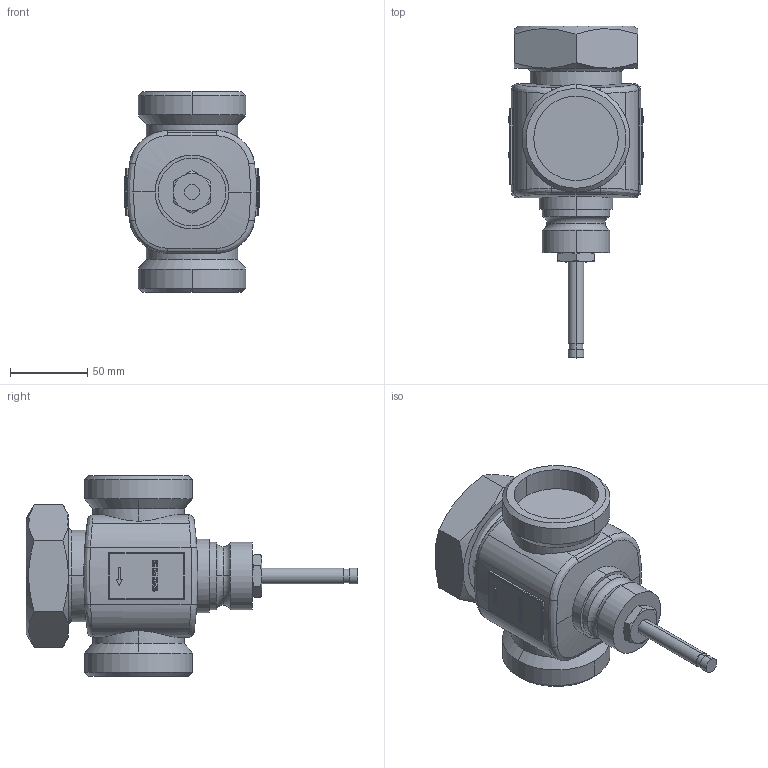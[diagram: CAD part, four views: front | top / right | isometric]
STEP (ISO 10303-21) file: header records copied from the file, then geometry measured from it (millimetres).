
FILE_DESCRIPTION((''),'2;1');
FILE_NAME('000154.stp','2006-09-29T17:18:45',(''),(''),'Mechanical Desktop 2006','Mechanical Desktop 2006',', , ');
FILE_SCHEMA(('AUTOMOTIVE_DESIGN { 1 2 10303 214 0 1 1 1 }'));
Length unit declared in the file: millimetre
Products named in the file (1): Product
Bounding box: 87.67 x 215.5 x 130 mm (x, y, z)
Volume: 767640.2 mm3; surface area: 108086.6 mm2
Topology: 26 solids, 26 shells, 529 faces, 1369 edges, 889 vertices
Faces by surface type: cylinder 245, plane 202, bspline 58, cone 12, sphere 8, torus 4
Entity records: 18306 total; most frequent: CARTESIAN_POINT 5305, ORIENTED_EDGE 2722, DIRECTION 2712, EDGE_CURVE 1361, AXIS2_PLACEMENT_3D 980, VERTEX_POINT 889, VECTOR 752, LINE 752
